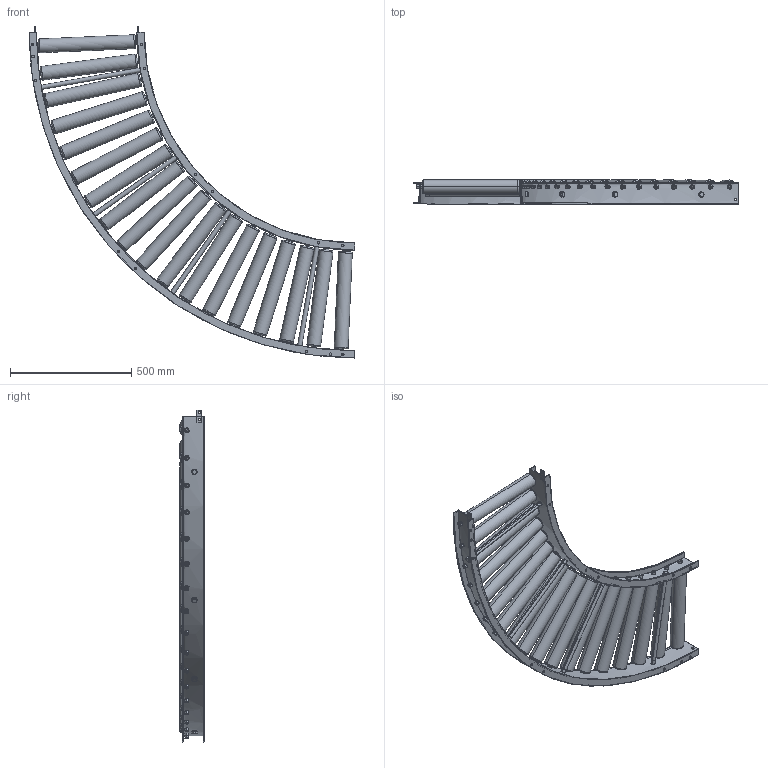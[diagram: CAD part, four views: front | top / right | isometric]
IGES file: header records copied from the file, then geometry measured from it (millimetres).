
Start section: SolidWorks IGES file using analytic representation for surfaces
Global section: file name: C:\Users\0656\Desktop\変換ツール\iges変換\R-5723_C.igs; native system: SolidWorks 2023; preprocessor: SolidWorks 2023; author: 0656; date: 240315.112042; units: millimetre
Bounding box: 1345 x 100.1 x 1370.12 mm (x, y, z)
Surface area: 3717725.3 mm2 (no closed solid volume)
Topology: 0 solids, 0 shells, 876 faces, 19016 edges, 19016 vertices
Faces by surface type: revolution 470, bspline 406
